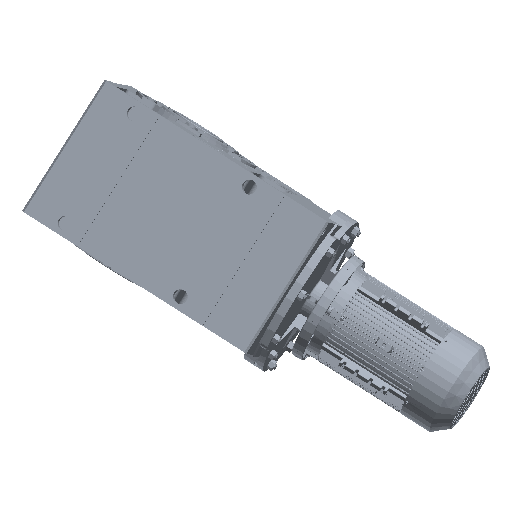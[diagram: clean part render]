
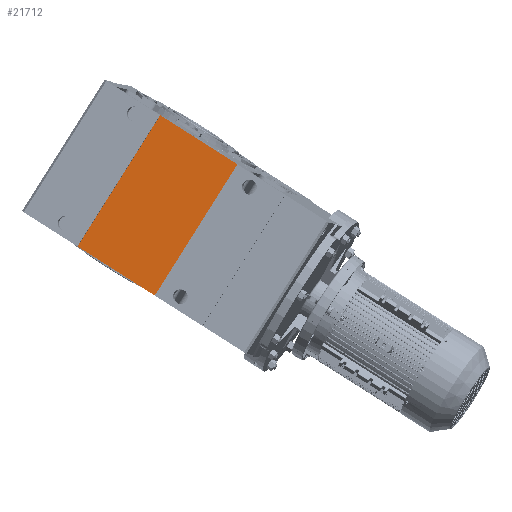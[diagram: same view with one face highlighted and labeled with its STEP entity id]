
A CAD part, front view. The second image highlights one B-rep face of the part: STEP entity #21712.
In plain terms, the highlighted planar face has unit normal (-0.115, -0.993, 0.028) as drawn and (0, -1, 0) by its records, which use the part's own axes.
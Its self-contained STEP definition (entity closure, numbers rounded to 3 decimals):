
#21712 = ADVANCED_FACE ( 'NONE', ( #208432 ), #34941, .T. ) ;
#34825 = DIRECTION ( 'NONE',  ( 0., -1., 0. ) ) ;
#34887 = DIRECTION ( 'NONE',  ( 1., 0., 0. ) ) ;
#34941 = PLANE ( 'NONE',  #216625 ) ;
#34986 = CARTESIAN_POINT ( 'NONE',  ( 111., -348.5, 683. ) ) ;
#62179 = EDGE_CURVE ( 'NONE', #103712, #103314, #212935, .T. ) ;
#62291 = EDGE_CURVE ( 'NONE', #103739, #103297, #213298, .T. ) ;
#62363 = EDGE_CURVE ( 'NONE', #103739, #103314, #213614, .T. ) ;
#62461 = EDGE_CURVE ( 'NONE', #103712, #103297, #213761, .T. ) ;
#90929 = ORIENTED_EDGE ( 'NONE', *, *, #62461, .F. ) ;
#90949 = ORIENTED_EDGE ( 'NONE', *, *, #62179, .T. ) ;
#90991 = ORIENTED_EDGE ( 'NONE', *, *, #62363, .F. ) ;
#90996 = ORIENTED_EDGE ( 'NONE', *, *, #62291, .T. ) ;
#103297 = VERTEX_POINT ( 'NONE', #147994 ) ;
#103314 = VERTEX_POINT ( 'NONE', #148103 ) ;
#103712 = VERTEX_POINT ( 'NONE', #148405 ) ;
#103739 = VERTEX_POINT ( 'NONE', #148387 ) ;
#147994 = CARTESIAN_POINT ( 'NONE',  ( 197.5, -348.5, 283. ) ) ;
#148103 = CARTESIAN_POINT ( 'NONE',  ( -197.5, -348.5, 518. ) ) ;
#148387 = CARTESIAN_POINT ( 'NONE',  ( -197.5, -348.5, 283. ) ) ;
#148405 = CARTESIAN_POINT ( 'NONE',  ( 197.5, -348.5, 518. ) ) ;
#205255 = EDGE_LOOP ( 'NONE', ( #90996, #90929, #90949, #90991 ) ) ;
#208432 = FACE_OUTER_BOUND ( 'NONE', #205255, .T. ) ;
#209358 = CARTESIAN_POINT ( 'NONE',  ( 111., -348.5, 518. ) ) ;
#209366 = DIRECTION ( 'NONE',  ( -1., 0., 0. ) ) ;
#209723 = CARTESIAN_POINT ( 'NONE',  ( -200., -348.5, 283. ) ) ;
#209859 = DIRECTION ( 'NONE',  ( 1., 0., 0. ) ) ;
#209889 = CARTESIAN_POINT ( 'NONE',  ( -197.5, -348.5, 98. ) ) ;
#209913 = DIRECTION ( 'NONE',  ( 0., 0., 1. ) ) ;
#210193 = CARTESIAN_POINT ( 'NONE',  ( 197.5, -348.5, 98. ) ) ;
#210213 = DIRECTION ( 'NONE',  ( 0., 0., -1. ) ) ;
#212935 = LINE ( 'NONE', #209358, #212986 ) ;
#212986 = VECTOR ( 'NONE', #209366, 1000. ) ;
#213298 = LINE ( 'NONE', #209723, #213369 ) ;
#213369 = VECTOR ( 'NONE', #209859, 1000. ) ;
#213610 = VECTOR ( 'NONE', #209913, 1000. ) ;
#213614 = LINE ( 'NONE', #209889, #213610 ) ;
#213761 = LINE ( 'NONE', #210193, #213953 ) ;
#213953 = VECTOR ( 'NONE', #210213, 1000. ) ;
#216625 = AXIS2_PLACEMENT_3D ( 'NONE', #34986, #34825, #34887 ) ;
